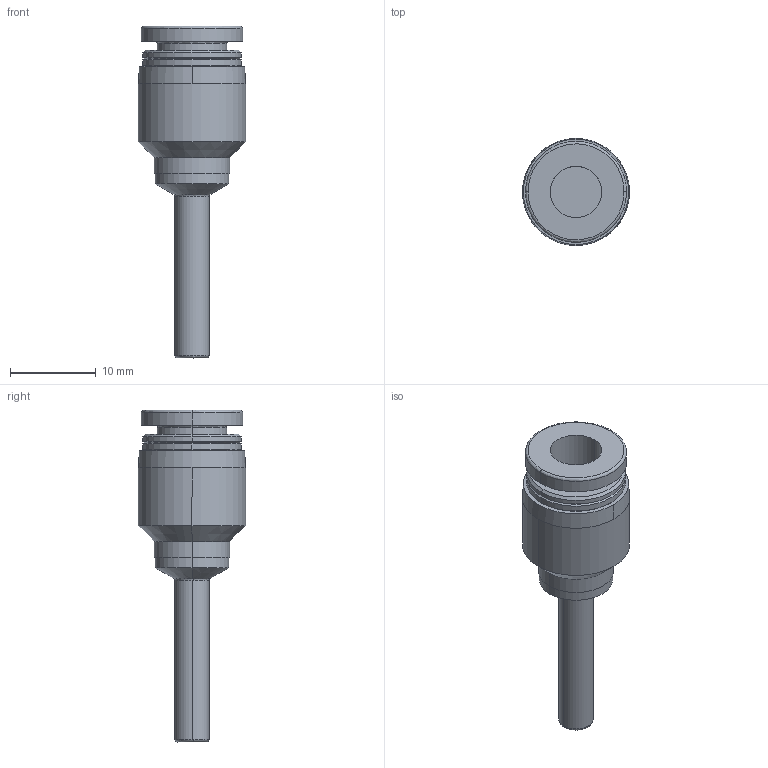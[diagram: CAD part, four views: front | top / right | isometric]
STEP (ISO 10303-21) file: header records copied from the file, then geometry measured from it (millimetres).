
FILE_DESCRIPTION (( 'STEP AP214' ), '1' );
FILE_NAME ('APGJ4-6.STEP', '2019-12-05T08:40:52', ( '微软用户' ), ( '微软中国' ), 'SwSTEP 2.0', 'SolidWorks 2016', '' );
FILE_SCHEMA (( 'AUTOMOTIVE_DESIGN' ));
Length unit declared in the file: millimetre
Products named in the file (1): APGJ4-6
Bounding box: 12.5 x 12.5 x 38.75 mm (x, y, z)
Volume: 1666.3 mm3; surface area: 1533.7 mm2
Topology: 1 solids, 1 shells, 49 faces, 109 edges, 66 vertices
Faces by surface type: cylinder 18, cone 16, bspline 8, plane 7
Entity records: 1850 total; most frequent: CARTESIAN_POINT 726, DIRECTION 250, ORIENTED_EDGE 216, EDGE_CURVE 108, AXIS2_PLACEMENT_3D 108, CIRCLE 66, VERTEX_POINT 66, EDGE_LOOP 54
